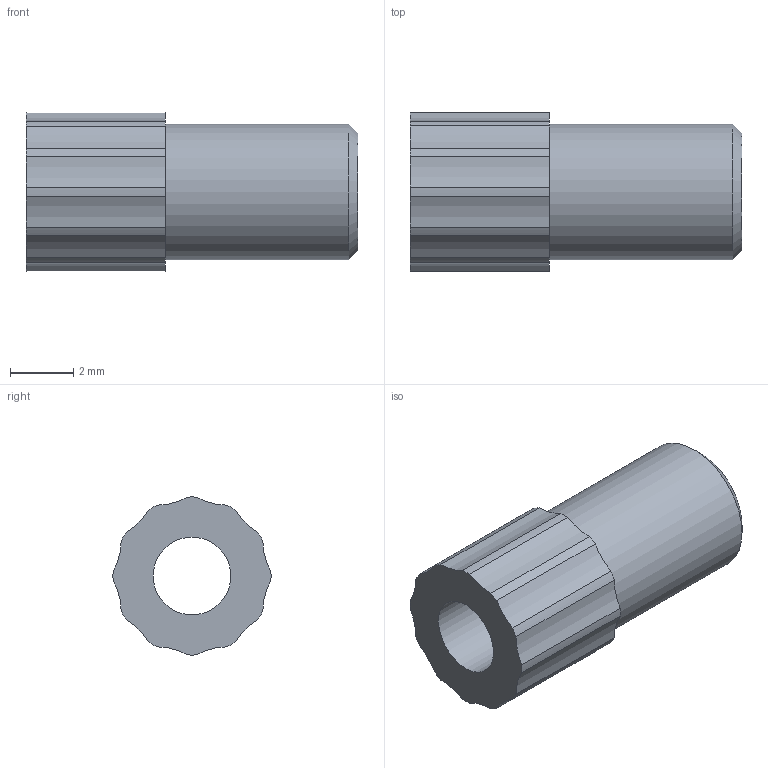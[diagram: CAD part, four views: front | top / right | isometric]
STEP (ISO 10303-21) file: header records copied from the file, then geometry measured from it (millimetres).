
FILE_DESCRIPTION( ( 'Unknown' ), '1' );
FILE_NAME( '//baumerholding.org/frauenfeld/bereich/BECH/Services/me_CAD/Solid Edge/Models/Dokumentationen/Opto/Zubehör/Vereinfachte Modelle/Neutralformate/10134542.stp', 'Unknown', ( 'Unknown' ), ( 'Unknown' ), 'PSStep 10.0', 'Unknown', ' ' );
FILE_SCHEMA( ( 'AUTOMOTIVE_DESIGN { 1 0 10303 214 1 1 1 1 }' ) );
Length unit declared in the file: millimetre
Products named in the file (1): 1
Bounding box: 10.5 x 5 x 5 mm (x, y, z)
Volume: 120.5 mm3; surface area: 258.3 mm2
Topology: 1 solids, 1 shells, 31 faces, 84 edges, 56 vertices
Faces by surface type: cylinder 27, plane 3, cone 1
Full cylindrical faces by diameter (mm): 2.459 x2, 4.3 x1
Entity records: 1242 total; most frequent: DIRECTION 196, CARTESIAN_POINT 164, ORIENTED_EDGE 156, AXIS2_PLACEMENT_3D 86, EDGE_CURVE 78, VERTEX_POINT 54, CIRCLE 54, EDGE_LOOP 38
